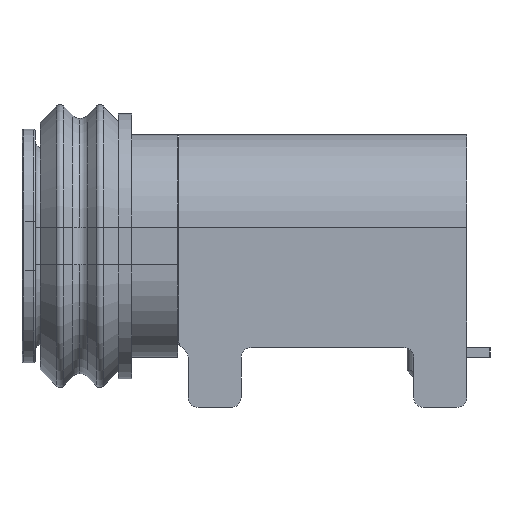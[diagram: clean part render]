
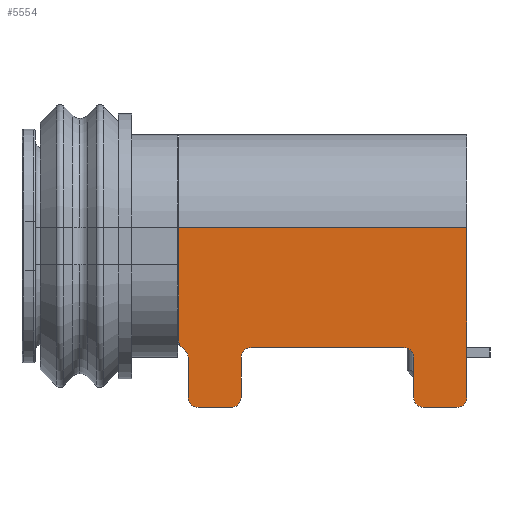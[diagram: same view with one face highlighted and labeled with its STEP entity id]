
A CAD part, left-side view. The second image highlights one B-rep face of the part: STEP entity #5554.
In plain terms, the highlighted planar face has unit normal (-1, 0, 0).
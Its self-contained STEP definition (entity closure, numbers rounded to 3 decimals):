
#52 = CARTESIAN_POINT ( 'NONE',  ( -177.767, -6.325, -3.11 ) ) ;
#112 = VERTEX_POINT ( 'NONE', #28289 ) ;
#376 = CARTESIAN_POINT ( 'NONE',  ( -177.767, -4.075, -4.01 ) ) ;
#830 = EDGE_CURVE ( 'NONE', #5401, #12349, #30877, .T. ) ;
#1648 = AXIS2_PLACEMENT_3D ( 'NONE', #21812, #27379, #21191 ) ;
#2180 = CARTESIAN_POINT ( 'NONE',  ( -177.767, -2.935, -1.91 ) ) ;
#2604 = DIRECTION ( 'NONE',  ( 0., 0., 1. ) ) ;
#3778 = ORIENTED_EDGE ( 'NONE', *, *, #8846, .T. ) ;
#3846 = CARTESIAN_POINT ( 'NONE',  ( -177.767, -6.625, -3.86 ) ) ;
#3857 = CARTESIAN_POINT ( 'NONE',  ( -177.767, -3.006, -3.128 ) ) ;
#4057 = CARTESIAN_POINT ( 'NONE',  ( -177.767, -7.275, -3.86 ) ) ;
#4612 = ORIENTED_EDGE ( 'NONE', *, *, #27083, .T. ) ;
#4702 = EDGE_CURVE ( 'NONE', #28795, #32713, #35681, .T. ) ;
#4827 = DIRECTION ( 'NONE',  ( 0., 1., 0. ) ) ;
#5164 = VERTEX_POINT ( 'NONE', #17733 ) ;
#5401 = VERTEX_POINT ( 'NONE', #7825 ) ;
#5554 = ADVANCED_FACE ( 'NONE', ( #30639 ), #36592, .T. ) ;
#5948 = CIRCLE ( 'NONE', #31560, 0.15 ) ;
#5978 = DIRECTION ( 'NONE',  ( 0., -1., 0. ) ) ;
#6257 = DIRECTION ( 'NONE',  ( 0., 0., 1. ) ) ;
#6643 = EDGE_CURVE ( 'NONE', #28795, #5401, #34401, .T. ) ;
#7003 = DIRECTION ( 'NONE',  ( -1., 0., 0. ) ) ;
#7825 = CARTESIAN_POINT ( 'NONE',  ( -177.767, -6.475, -3.26 ) ) ;
#7852 = VECTOR ( 'NONE', #9142, 1000. ) ;
#7945 = EDGE_CURVE ( 'NONE', #12349, #36555, #8270, .T. ) ;
#7952 = CARTESIAN_POINT ( 'NONE',  ( -177.767, -3.875, -3.26 ) ) ;
#8067 = DIRECTION ( 'NONE',  ( 0., 0., 1. ) ) ;
#8121 = ORIENTED_EDGE ( 'NONE', *, *, #15395, .T. ) ;
#8270 = CIRCLE ( 'NONE', #40444, 0.15 ) ;
#8846 = EDGE_CURVE ( 'NONE', #10399, #32713, #33851, .T. ) ;
#8861 = EDGE_CURVE ( 'NONE', #36555, #22145, #11753, .T. ) ;
#9142 = DIRECTION ( 'NONE',  ( 0., 0., 1. ) ) ;
#10134 = CARTESIAN_POINT ( 'NONE',  ( -177.767, -6.475, -3.86 ) ) ;
#10399 = VERTEX_POINT ( 'NONE', #7952 ) ;
#10528 = VECTOR ( 'NONE', #23891, 1000. ) ;
#10809 = CARTESIAN_POINT ( 'NONE',  ( -177.767, -0.275, -3.11 ) ) ;
#11189 = LINE ( 'NONE', #23724, #34977 ) ;
#11299 = CARTESIAN_POINT ( 'NONE',  ( -177.767, -6.625, -4.01 ) ) ;
#11696 = VERTEX_POINT ( 'NONE', #3857 ) ;
#11731 = CARTESIAN_POINT ( 'NONE',  ( -177.767, -55.78, -1.91 ) ) ;
#11753 = LINE ( 'NONE', #36816, #17420 ) ;
#11991 = EDGE_LOOP ( 'NONE', ( #8121, #36397, #16770, #12022, #15837, #20286, #4612, #22586, #3778, #18995, #17403, #35752, #14538, #21570, #25679, #39457, #14006 ) ) ;
#12022 = ORIENTED_EDGE ( 'NONE', *, *, #39624, .F. ) ;
#12084 = CARTESIAN_POINT ( 'NONE',  ( -177.767, -3.078, -3.86 ) ) ;
#12193 = VECTOR ( 'NONE', #34118, 1000. ) ;
#12349 = VERTEX_POINT ( 'NONE', #10134 ) ;
#13765 = AXIS2_PLACEMENT_3D ( 'NONE', #15768, #21939, #37756 ) ;
#13805 = CARTESIAN_POINT ( 'NONE',  ( -177.767, -6.325, -3.26 ) ) ;
#14006 = ORIENTED_EDGE ( 'NONE', *, *, #40548, .T. ) ;
#14538 = ORIENTED_EDGE ( 'NONE', *, *, #7945, .T. ) ;
#15010 = DIRECTION ( 'NONE',  ( -1., 0., 0. ) ) ;
#15092 = CARTESIAN_POINT ( 'NONE',  ( -177.767, -3.078, -4.01 ) ) ;
#15395 = EDGE_CURVE ( 'NONE', #18558, #30260, #33443, .T. ) ;
#15489 = LINE ( 'NONE', #15092, #7852 ) ;
#15768 = CARTESIAN_POINT ( 'NONE',  ( -177.767, -2.928, -3.256 ) ) ;
#15837 = ORIENTED_EDGE ( 'NONE', *, *, #40209, .T. ) ;
#16216 = LINE ( 'NONE', #28546, #31887 ) ;
#16348 = EDGE_CURVE ( 'NONE', #22145, #33189, #26820, .T. ) ;
#16770 = ORIENTED_EDGE ( 'NONE', *, *, #39349, .T. ) ;
#17067 = CARTESIAN_POINT ( 'NONE',  ( -177.767, -4.025, -3.11 ) ) ;
#17195 = EDGE_CURVE ( 'NONE', #30260, #11696, #29261, .T. ) ;
#17319 = AXIS2_PLACEMENT_3D ( 'NONE', #13805, #38882, #36598 ) ;
#17403 = ORIENTED_EDGE ( 'NONE', *, *, #6643, .T. ) ;
#17420 = VECTOR ( 'NONE', #5978, 1000. ) ;
#17733 = CARTESIAN_POINT ( 'NONE',  ( -177.767, -3.875, -3.86 ) ) ;
#18558 = VERTEX_POINT ( 'NONE', #29924 ) ;
#18995 = ORIENTED_EDGE ( 'NONE', *, *, #4702, .F. ) ;
#20286 = ORIENTED_EDGE ( 'NONE', *, *, #25263, .T. ) ;
#20816 = DIRECTION ( 'NONE',  ( -1., 0., 0. ) ) ;
#20848 = VECTOR ( 'NONE', #20904, 1000. ) ;
#20904 = DIRECTION ( 'NONE',  ( 0., 0., -1. ) ) ;
#20984 = EDGE_CURVE ( 'NONE', #5164, #10399, #11189, .T. ) ;
#21191 = DIRECTION ( 'NONE',  ( 0., 0., 1. ) ) ;
#21570 = ORIENTED_EDGE ( 'NONE', *, *, #8861, .T. ) ;
#21812 = CARTESIAN_POINT ( 'NONE',  ( -177.767, -4.025, -3.26 ) ) ;
#21896 = CARTESIAN_POINT ( 'NONE',  ( -177.767, -3.725, -3.86 ) ) ;
#21939 = DIRECTION ( 'NONE',  ( 1., 0., 0. ) ) ;
#22145 = VERTEX_POINT ( 'NONE', #23251 ) ;
#22395 = CARTESIAN_POINT ( 'NONE',  ( -177.767, -3.078, -3.256 ) ) ;
#22533 = VERTEX_POINT ( 'NONE', #12084 ) ;
#22586 = ORIENTED_EDGE ( 'NONE', *, *, #20984, .T. ) ;
#23251 = CARTESIAN_POINT ( 'NONE',  ( -177.767, -7.125, -4.01 ) ) ;
#23724 = CARTESIAN_POINT ( 'NONE',  ( -177.767, -3.875, -3.76 ) ) ;
#23891 = DIRECTION ( 'NONE',  ( 0., 0., -1. ) ) ;
#25263 = EDGE_CURVE ( 'NONE', #39390, #31428, #28555, .T. ) ;
#25277 = DIRECTION ( 'NONE',  ( 0., 0., -1. ) ) ;
#25679 = ORIENTED_EDGE ( 'NONE', *, *, #16348, .T. ) ;
#25734 = DIRECTION ( 'NONE',  ( 0., 0., 1. ) ) ;
#26241 = LINE ( 'NONE', #35066, #39445 ) ;
#26247 = CIRCLE ( 'NONE', #13765, 0.15 ) ;
#26820 = CIRCLE ( 'NONE', #36658, 0.15 ) ;
#27083 = EDGE_CURVE ( 'NONE', #31428, #5164, #38035, .T. ) ;
#27379 = DIRECTION ( 'NONE',  ( 1., 0., 0. ) ) ;
#28289 = CARTESIAN_POINT ( 'NONE',  ( -177.767, -7.275, -1.3 ) ) ;
#28546 = CARTESIAN_POINT ( 'NONE',  ( -177.767, -7.275, -1.91 ) ) ;
#28555 = LINE ( 'NONE', #376, #12193 ) ;
#28795 = VERTEX_POINT ( 'NONE', #52 ) ;
#29261 = CIRCLE ( 'NONE', #38440, 0.15 ) ;
#29466 = CARTESIAN_POINT ( 'NONE',  ( -177.767, -3.085, -3. ) ) ;
#29924 = CARTESIAN_POINT ( 'NONE',  ( -177.767, -2.935, -1.3 ) ) ;
#30170 = AXIS2_PLACEMENT_3D ( 'NONE', #21896, #34426, #6257 ) ;
#30260 = VERTEX_POINT ( 'NONE', #34359 ) ;
#30639 = FACE_OUTER_BOUND ( 'NONE', #11991, .T. ) ;
#30666 = CARTESIAN_POINT ( 'NONE',  ( -177.767, -6.475, -3.01 ) ) ;
#30877 = LINE ( 'NONE', #30666, #10528 ) ;
#31428 = VERTEX_POINT ( 'NONE', #37657 ) ;
#31560 = AXIS2_PLACEMENT_3D ( 'NONE', #33243, #36934, #2604 ) ;
#31814 = DIRECTION ( 'NONE',  ( 0., 0., 1. ) ) ;
#31887 = VECTOR ( 'NONE', #25277, 1000. ) ;
#32713 = VERTEX_POINT ( 'NONE', #17067 ) ;
#33189 = VERTEX_POINT ( 'NONE', #4057 ) ;
#33243 = CARTESIAN_POINT ( 'NONE',  ( -177.767, -3.228, -3.86 ) ) ;
#33341 = AXIS2_PLACEMENT_3D ( 'NONE', #11731, #15010, #33513 ) ;
#33443 = LINE ( 'NONE', #2180, #20848 ) ;
#33513 = DIRECTION ( 'NONE',  ( 0., 0., 1. ) ) ;
#33851 = CIRCLE ( 'NONE', #1648, 0.15 ) ;
#34118 = DIRECTION ( 'NONE',  ( 0., -1., 0. ) ) ;
#34359 = CARTESIAN_POINT ( 'NONE',  ( -177.767, -2.935, -3. ) ) ;
#34401 = CIRCLE ( 'NONE', #17319, 0.15 ) ;
#34426 = DIRECTION ( 'NONE',  ( -1., 0., 0. ) ) ;
#34977 = VECTOR ( 'NONE', #36250, 1000. ) ;
#35066 = CARTESIAN_POINT ( 'NONE',  ( -177.767, -55.78, -1.3 ) ) ;
#35681 = LINE ( 'NONE', #10809, #38663 ) ;
#35752 = ORIENTED_EDGE ( 'NONE', *, *, #830, .T. ) ;
#36250 = DIRECTION ( 'NONE',  ( 0., 0., 1. ) ) ;
#36397 = ORIENTED_EDGE ( 'NONE', *, *, #17195, .T. ) ;
#36555 = VERTEX_POINT ( 'NONE', #11299 ) ;
#36592 = PLANE ( 'NONE',  #33341 ) ;
#36598 = DIRECTION ( 'NONE',  ( 0., 0., 1. ) ) ;
#36658 = AXIS2_PLACEMENT_3D ( 'NONE', #37653, #7003, #25734 ) ;
#36816 = CARTESIAN_POINT ( 'NONE',  ( -177.767, -6.475, -4.01 ) ) ;
#36934 = DIRECTION ( 'NONE',  ( -1., 0., 0. ) ) ;
#37653 = CARTESIAN_POINT ( 'NONE',  ( -177.767, -7.125, -3.86 ) ) ;
#37657 = CARTESIAN_POINT ( 'NONE',  ( -177.767, -3.725, -4.01 ) ) ;
#37756 = DIRECTION ( 'NONE',  ( 0., 0., 1. ) ) ;
#37890 = EDGE_CURVE ( 'NONE', #112, #33189, #16216, .T. ) ;
#37952 = CARTESIAN_POINT ( 'NONE',  ( -177.767, -3.228, -4.01 ) ) ;
#38035 = CIRCLE ( 'NONE', #30170, 0.15 ) ;
#38440 = AXIS2_PLACEMENT_3D ( 'NONE', #29466, #20816, #8067 ) ;
#38594 = DIRECTION ( 'NONE',  ( -1., 0., 0. ) ) ;
#38663 = VECTOR ( 'NONE', #4827, 1000. ) ;
#38774 = DIRECTION ( 'NONE',  ( 0., 1., 0. ) ) ;
#38882 = DIRECTION ( 'NONE',  ( 1., 0., 0. ) ) ;
#39002 = VERTEX_POINT ( 'NONE', #22395 ) ;
#39349 = EDGE_CURVE ( 'NONE', #11696, #39002, #26247, .T. ) ;
#39390 = VERTEX_POINT ( 'NONE', #37952 ) ;
#39445 = VECTOR ( 'NONE', #38774, 1000. ) ;
#39457 = ORIENTED_EDGE ( 'NONE', *, *, #37890, .F. ) ;
#39624 = EDGE_CURVE ( 'NONE', #22533, #39002, #15489, .T. ) ;
#40209 = EDGE_CURVE ( 'NONE', #22533, #39390, #5948, .T. ) ;
#40444 = AXIS2_PLACEMENT_3D ( 'NONE', #3846, #38594, #31814 ) ;
#40548 = EDGE_CURVE ( 'NONE', #112, #18558, #26241, .T. ) ;
